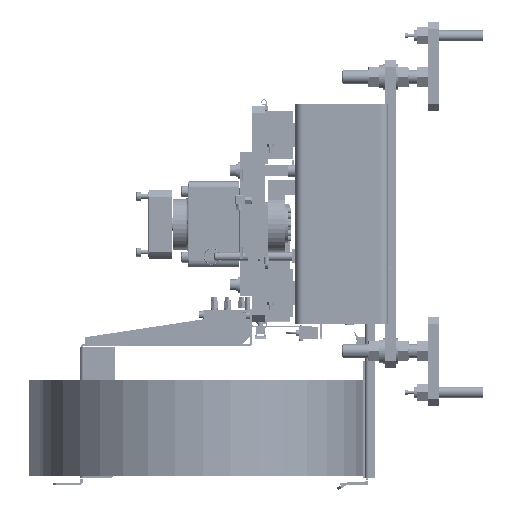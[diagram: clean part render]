
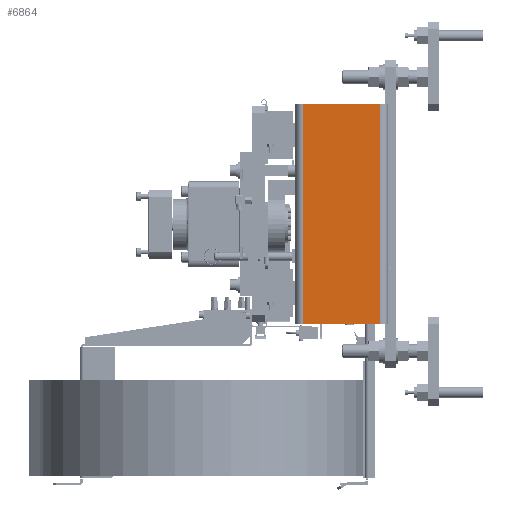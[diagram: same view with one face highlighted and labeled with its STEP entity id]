
A CAD part, left-side view. The second image highlights one B-rep face of the part: STEP entity #6864.
In plain terms, the highlighted planar face has unit normal (-1, 0, 0).
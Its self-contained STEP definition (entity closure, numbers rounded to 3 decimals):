
#2953 = EDGE_LOOP ( 'NONE', ( #63251, #84992, #47991, #25058 ) ) ;
#4197 = LINE ( 'NONE', #103499, #160189 ) ;
#6864 = ADVANCED_FACE ( 'NONE', ( #51023 ), #38749, .F. ) ;
#12417 = CARTESIAN_POINT ( 'NONE',  ( -997., -7.4, 160. ) ) ;
#16160 = VERTEX_POINT ( 'NONE', #119219 ) ;
#21780 = AXIS2_PLACEMENT_3D ( 'NONE', #100539, #111977, #111161 ) ;
#23064 = LINE ( 'NONE', #72827, #122425 ) ;
#25004 = EDGE_CURVE ( 'NONE', #117347, #16160, #55156, .T. ) ;
#25058 = ORIENTED_EDGE ( 'NONE', *, *, #25004, .T. ) ;
#32424 = VERTEX_POINT ( 'NONE', #12417 ) ;
#38749 = PLANE ( 'NONE',  #21780 ) ;
#40267 = DIRECTION ( 'NONE',  ( 0., -1., 0. ) ) ;
#40482 = CARTESIAN_POINT ( 'NONE',  ( -997., 106., 160. ) ) ;
#41678 = DIRECTION ( 'NONE',  ( 0., -1., 0. ) ) ;
#44500 = EDGE_CURVE ( 'NONE', #32424, #120188, #23064, .T. ) ;
#47991 = ORIENTED_EDGE ( 'NONE', *, *, #99596, .F. ) ;
#51023 = FACE_OUTER_BOUND ( 'NONE', #2953, .T. ) ;
#55156 = LINE ( 'NONE', #40482, #57625 ) ;
#57625 = VECTOR ( 'NONE', #154175, 1000. ) ;
#63251 = ORIENTED_EDGE ( 'NONE', *, *, #118097, .T. ) ;
#72827 = CARTESIAN_POINT ( 'NONE',  ( -997., -7.4, 160. ) ) ;
#84195 = DIRECTION ( 'NONE',  ( 0., 0., -1. ) ) ;
#84992 = ORIENTED_EDGE ( 'NONE', *, *, #44500, .F. ) ;
#99596 = EDGE_CURVE ( 'NONE', #117347, #32424, #112706, .T. ) ;
#100539 = CARTESIAN_POINT ( 'NONE',  ( -997., -7.4, 160. ) ) ;
#102096 = CARTESIAN_POINT ( 'NONE',  ( -997., -7.4, 160. ) ) ;
#103499 = CARTESIAN_POINT ( 'NONE',  ( -997., -7.4, -160. ) ) ;
#106330 = VECTOR ( 'NONE', #40267, 1000. ) ;
#111161 = DIRECTION ( 'NONE',  ( 0., 1., 0. ) ) ;
#111977 = DIRECTION ( 'NONE',  ( 1., 0., 0. ) ) ;
#112706 = LINE ( 'NONE', #102096, #106330 ) ;
#117347 = VERTEX_POINT ( 'NONE', #120461 ) ;
#118097 = EDGE_CURVE ( 'NONE', #16160, #120188, #4197, .T. ) ;
#119219 = CARTESIAN_POINT ( 'NONE',  ( -997., 106., -160. ) ) ;
#120188 = VERTEX_POINT ( 'NONE', #158971 ) ;
#120461 = CARTESIAN_POINT ( 'NONE',  ( -997., 106., 160. ) ) ;
#122425 = VECTOR ( 'NONE', #84195, 1000. ) ;
#154175 = DIRECTION ( 'NONE',  ( 0., 0., -1. ) ) ;
#158971 = CARTESIAN_POINT ( 'NONE',  ( -997., -7.4, -160. ) ) ;
#160189 = VECTOR ( 'NONE', #41678, 1000. ) ;
